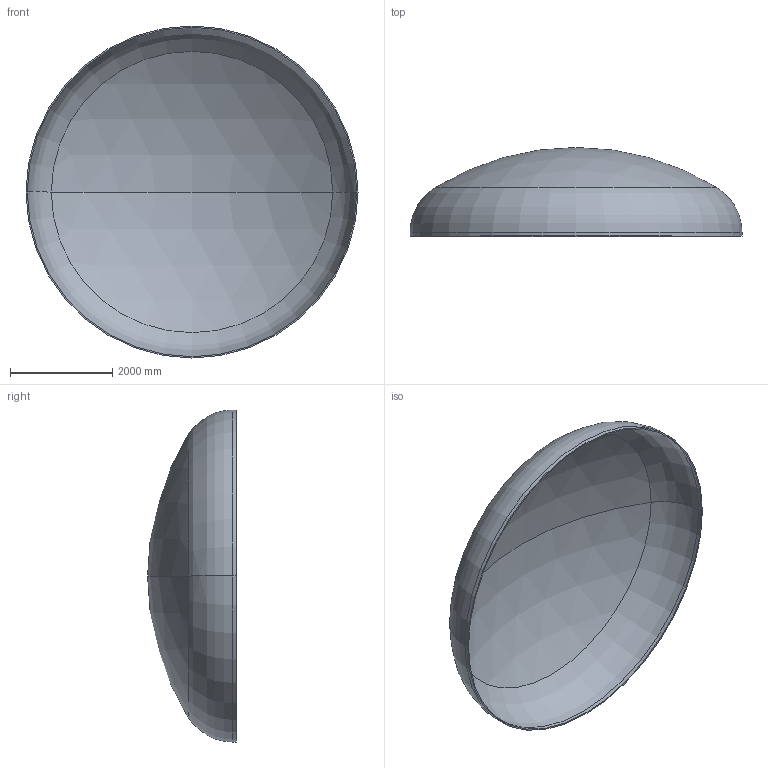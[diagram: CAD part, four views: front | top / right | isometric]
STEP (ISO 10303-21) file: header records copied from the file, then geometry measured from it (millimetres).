
FILE_DESCRIPTION (( 'STEP AP203' ), '1' );
FILE_NAME ('DIN 28013 Korbbogenform_-_Boden DIN 28013 - 6500 x 75 - I - s=25.step', '2016-07-04T10:40:45', ( '' ), ( '' ), 'SwSTEP 2.0', 'SolidWorks 2013', '' );
FILE_SCHEMA (( 'CONFIG_CONTROL_DESIGN' ));
Length unit declared in the file: millimetre
Products named in the file (1): DIN 28013 Korbbogenform_-_Boden DIN 28013 - 6500 x 75 - I - s=25
Bounding box: 6500 x 1737.79 x 6500 mm (x, y, z)
Volume: 1181105134.2 mm3; surface area: 94998226.9 mm2
Topology: 1 solids, 1 shells, 13 faces, 24 edges, 14 vertices
Faces by surface type: torus 4, cylinder 4, sphere 4, plane 1
Entity records: 407 total; most frequent: DIRECTION 72, CARTESIAN_POINT 52, ORIENTED_EDGE 48, AXIS2_PLACEMENT_3D 34, EDGE_CURVE 24, CIRCLE 20, EDGE_LOOP 14, VERTEX_POINT 14
